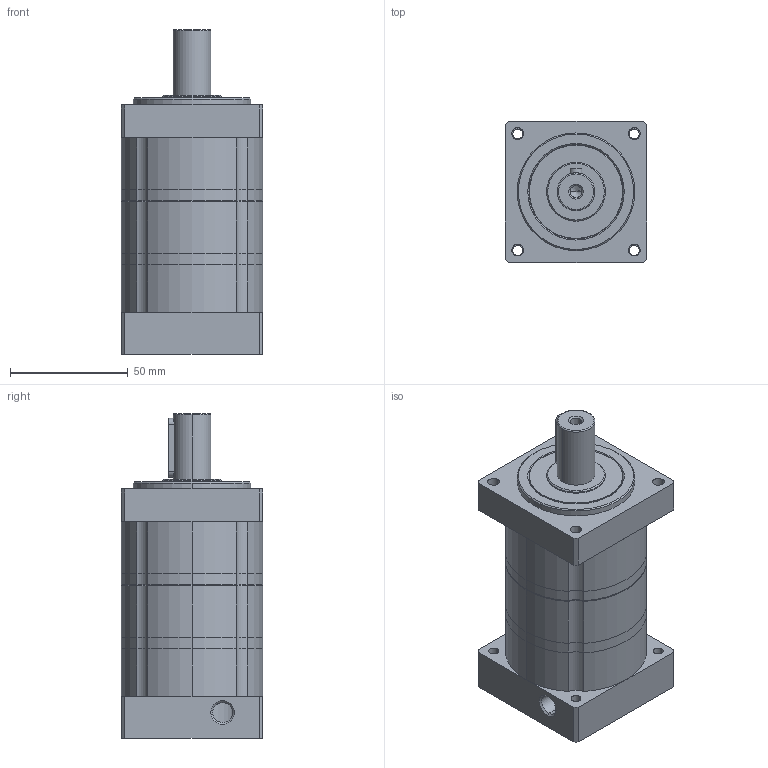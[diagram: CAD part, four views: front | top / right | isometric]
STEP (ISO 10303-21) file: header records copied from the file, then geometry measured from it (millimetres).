
FILE_DESCRIPTION (( 'STEP AP214' ), '1' );
FILE_NAME ('LX-060-025-Rev1.STEP', '2014-06-26T15:55:33', ( '' ), ( '' ), 'SwSTEP 2.0', 'SolidWorks 2014', '' );
FILE_SCHEMA (( 'AUTOMOTIVE_DESIGN' ));
Length unit declared in the file: millimetre
Products named in the file (1): LX-060-025-Rev1
Bounding box: 60 x 60 x 138 mm (x, y, z)
Volume: 200514.3 mm3; surface area: 73440.2 mm2
Topology: 11 solids, 11 shells, 206 faces, 490 edges, 309 vertices
Faces by surface type: cylinder 116, plane 45, cone 43, torus 2
Entity records: 8329 total; most frequent: CARTESIAN_POINT 1200, DIRECTION 1153, ORIENTED_EDGE 976, EDGE_CURVE 488, AXIS2_PLACEMENT_3D 481, VERTEX_POINT 309, CIRCLE 274, EDGE_LOOP 247
